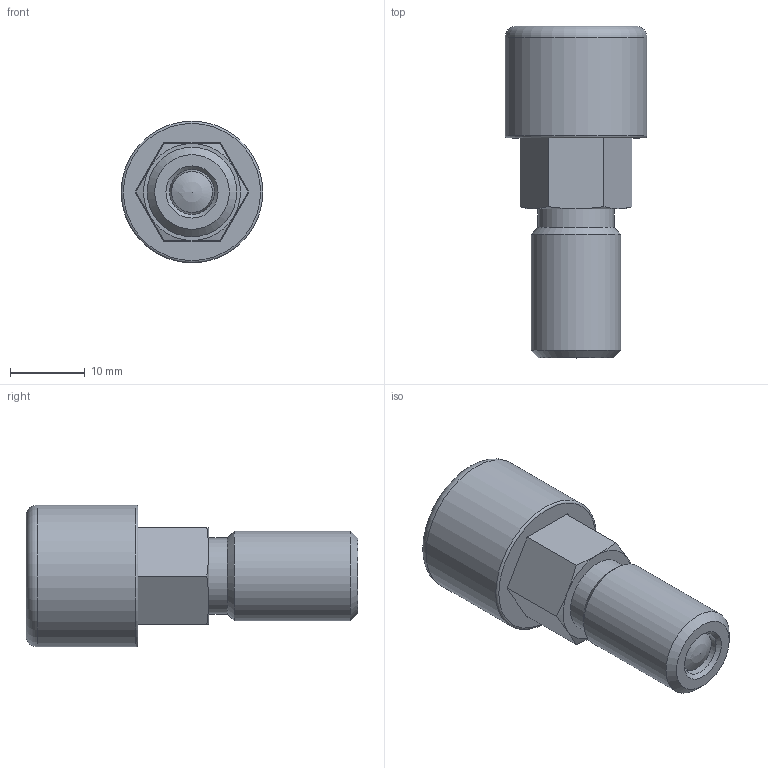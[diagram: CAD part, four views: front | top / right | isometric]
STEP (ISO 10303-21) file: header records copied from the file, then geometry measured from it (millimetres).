
FILE_DESCRIPTION( ( 'STEP AP203' ), '1' );
FILE_NAME( 'C:/Temp/Ganter_Step_05_03_2020/data/3_1/gn514/gn514_a/Locking plunger GN 514-6-A (deactivated).stp', '2020-03-12T08:32:05', ( 'License CC BY-ND 4.0' ), ( 'CADENAS' ), ' ', 'PARTsolutions', ' ' );
FILE_SCHEMA( ( 'CONFIG_CONTROL_DESIGN' ) );
Length unit declared in the file: millimetre
Products named in the file (3): Locking plunger GN 514-6-A (deactivated); _Locking plunger GN 514-6-A (unbetaetigt)-1; _Locking plunger GN 514-6-A (unbetaetigt)-2
Assembly tree (2 placements, depth 2):
  Locking plunger GN 514-6-A (deactivated)
    _Locking plunger GN 514-6-A (unbetaetigt)-1
    _Locking plunger GN 514-6-A (unbetaetigt)-2
Bounding box: 19 x 44.5 x 19 mm (x, y, z)
Volume: 6473.5 mm3; surface area: 5015.8 mm2
Topology: 2 solids, 2 shells, 62 faces, 123 edges, 75 vertices
Faces by surface type: plane 26, cylinder 13, cone 11, torus 10, bspline 1, sphere 1
Full cylindrical faces by diameter (mm): 6 x6, 8 x4, 10.2 x1, 12 x1, 19 x1
Entity records: 1609 total; most frequent: CARTESIAN_POINT 356, DIRECTION 246, ORIENTED_EDGE 178, AXIS2_PLACEMENT_3D 111, EDGE_LOOP 104, EDGE_CURVE 89, FACE_OUTER_BOUND 85, VERTEX_POINT 73
